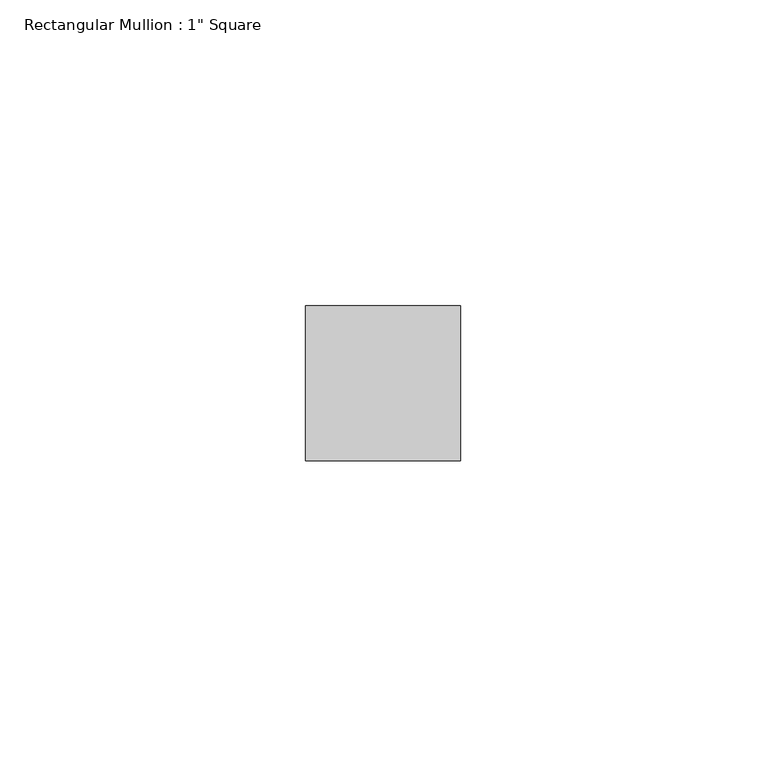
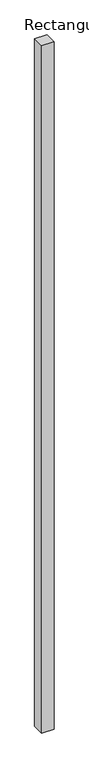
"""IFC4 building model written with IfcOpenShell, lengths in millimetres: member geometry."""

from ifc_helpers import new_model, si_unit, frame, origin, place, context, project, spatial, polyline, outline, extrude, source, transform, mapped, element, save


def member_bfa7dfb4(model_context):
    return source(origin(), model_context, "Body", "SweptSolid", [
        extrude(outline(polyline([(12.7, 12.7), (12.7, -12.7), (-12.7, -12.7), (-12.7, 12.7), (12.7, 12.7)])), frame((0.0, 0.0, -1506.3289948), z_axis=(0.0, 0.0, 1.0), x_axis=(1.0, 0.0, 0.0)), (0.0, 0.0, 1.0), 1506.3289948),
    ])


if __name__ == "__main__":
    model = new_model("IFC4")
    model_context = context("Model", 3, world=origin())
    ifc_project = project(units=[si_unit("LENGTHUNIT", "METRE", prefix="MILLI")], contexts=[model_context])
    site = spatial("IfcSite", under=ifc_project)
    building = spatial("IfcBuilding", under=site)
    placement = place(None, origin())
    member_shape = member_bfa7dfb4(model_context)
    element("IfcMember", 1, ObjectType="Rectangular Mullion : 1\" Square", at=placement, inside=building, context=model_context, shape_type="MappedRepresentation", body=[
        mapped(member_shape, transform((0.0, 0.0, 0.0), x_axis=(1.0, 0.0, 0.0), y_axis=(0.0, 1.0, 0.0), z_axis=(0.0, 0.0, 1.0))),
    ])
    save(model, "model.ifc")
